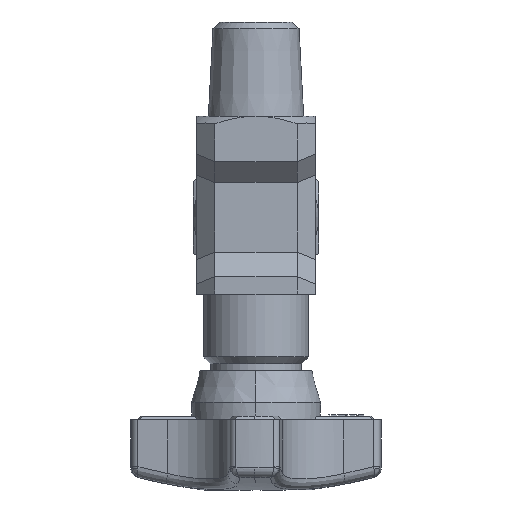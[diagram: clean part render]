
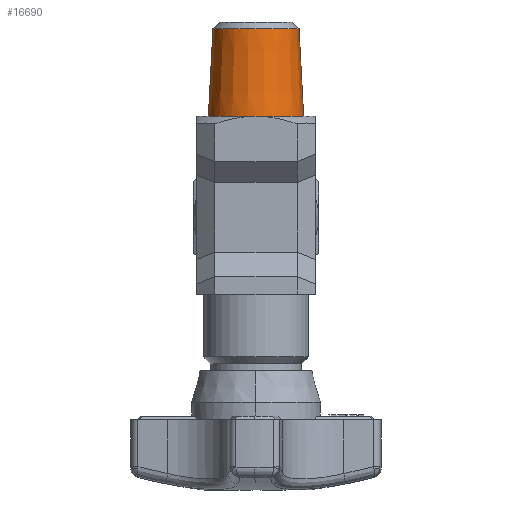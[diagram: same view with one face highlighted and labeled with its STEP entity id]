
A CAD part, front view. The second image highlights one B-rep face of the part: STEP entity #16690.
In plain terms, the highlighted conical face has half-angle 3 degrees and reference radius 6.83 mm.
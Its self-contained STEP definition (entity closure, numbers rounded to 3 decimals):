
#1953 = AXIS2_PLACEMENT_3D ( 'NONE', #4218, #4220, #4221 ) ;
#1956 = AXIS2_PLACEMENT_3D ( 'NONE', #4203, #4205, #4206 ) ;
#3857 = CARTESIAN_POINT ( 'NONE',  ( -6.83, 0., 0. ) ) ;
#3863 = DIRECTION ( 'NONE',  ( -0.052, 0., -0.999 ) ) ;
#4203 = CARTESIAN_POINT ( 'NONE',  ( 0., 0., 0. ) ) ;
#4205 = DIRECTION ( 'NONE',  ( 0., 0., 1. ) ) ;
#4206 = DIRECTION ( 'NONE',  ( 1., 0., 0. ) ) ;
#4218 = CARTESIAN_POINT ( 'NONE',  ( 0., 0., 12.501 ) ) ;
#4220 = DIRECTION ( 'NONE',  ( 0., 0., -1. ) ) ;
#4221 = DIRECTION ( 'NONE',  ( -1., 0., 0. ) ) ;
#4232 = CARTESIAN_POINT ( 'NONE',  ( 6.83, 0., 0. ) ) ;
#4233 = DIRECTION ( 'NONE',  ( 0.052, 0., -0.999 ) ) ;
#4808 = VECTOR ( 'NONE', #3863, 1000. ) ;
#4816 = LINE ( 'NONE', #3857, #4808 ) ;
#4963 = CIRCLE ( 'NONE', #1956, 6.83 ) ;
#4969 = CIRCLE ( 'NONE', #1953, 6.175 ) ;
#4972 = LINE ( 'NONE', #4232, #4973 ) ;
#4973 = VECTOR ( 'NONE', #4233, 1000. ) ;
#10385 = EDGE_LOOP ( 'NONE', ( #17086, #17103, #17104, #17084 ) ) ;
#12654 = VERTEX_POINT ( 'NONE', #17845 ) ;
#12664 = VERTEX_POINT ( 'NONE', #17855 ) ;
#12665 = VERTEX_POINT ( 'NONE', #17856 ) ;
#12707 = VERTEX_POINT ( 'NONE', #17898 ) ;
#16690 = ADVANCED_FACE ( 'NONE', ( #20974 ), #20988, .T. ) ;
#17084 = ORIENTED_EDGE ( 'NONE', *, *, #18188, .F. ) ;
#17086 = ORIENTED_EDGE ( 'NONE', *, *, #18184, .T. ) ;
#17103 = ORIENTED_EDGE ( 'NONE', *, *, #18080, .T. ) ;
#17104 = ORIENTED_EDGE ( 'NONE', *, *, #18180, .T. ) ;
#17845 = CARTESIAN_POINT ( 'NONE',  ( 6.83, 0., 0. ) ) ;
#17855 = CARTESIAN_POINT ( 'NONE',  ( -6.175, 0., 12.501 ) ) ;
#17856 = CARTESIAN_POINT ( 'NONE',  ( 6.175, 0., 12.501 ) ) ;
#17898 = CARTESIAN_POINT ( 'NONE',  ( -6.83, 0., 0. ) ) ;
#18080 = EDGE_CURVE ( 'NONE', #12664, #12707, #4816, .T. ) ;
#18180 = EDGE_CURVE ( 'NONE', #12707, #12654, #4963, .T. ) ;
#18184 = EDGE_CURVE ( 'NONE', #12665, #12664, #4969, .T. ) ;
#18188 = EDGE_CURVE ( 'NONE', #12665, #12654, #4972, .T. ) ;
#18759 = AXIS2_PLACEMENT_3D ( 'NONE', #23006, #22998, #22988 ) ;
#20974 = FACE_OUTER_BOUND ( 'NONE', #10385, .T. ) ;
#20988 = CONICAL_SURFACE ( 'NONE', #18759, 6.83, 0.052 ) ;
#22988 = DIRECTION ( 'NONE',  ( 1., 0., 0. ) ) ;
#22998 = DIRECTION ( 'NONE',  ( 0., 0., -1. ) ) ;
#23006 = CARTESIAN_POINT ( 'NONE',  ( 0., 0., 0. ) ) ;
